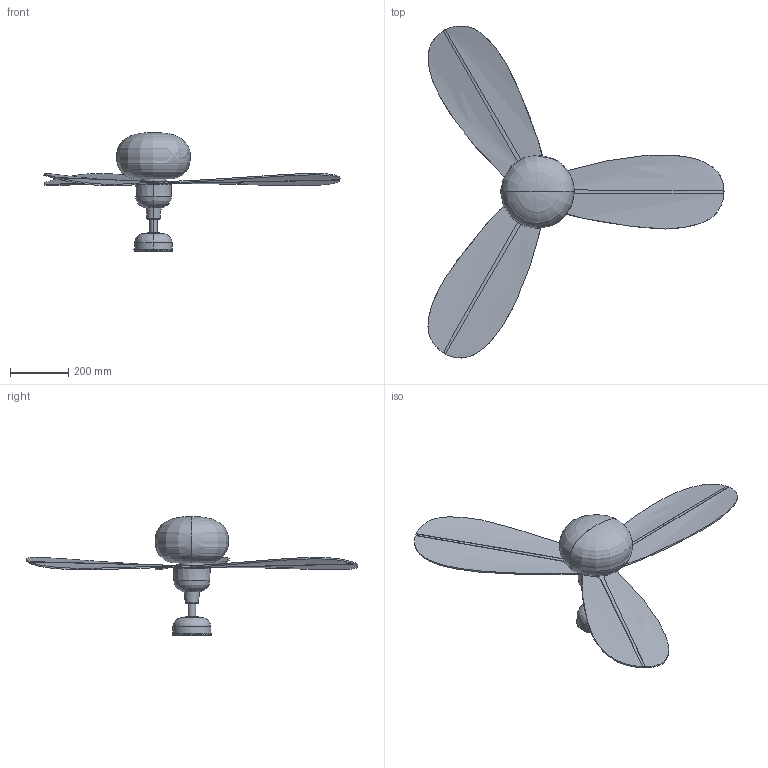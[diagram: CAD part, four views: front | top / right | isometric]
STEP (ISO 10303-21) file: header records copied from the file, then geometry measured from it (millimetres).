
FILE_DESCRIPTION(/* description */ (''),/* implementation_level */ '2;1');
FILE_NAME(/* name */ '34301WP-11L_3d.step',/* time_stamp */ '2024-04-18T13:08:09+02:00',/* author */ ('RenataManzini'),/* organization */ (''),/* preprocessor_version */ 'ST-DEVELOPER v20',/* originating_system */ 'AutoCAD Mechanical',/* authorisation */ '');
FILE_SCHEMA (('AUTOMOTIVE_DESIGN { 1 0 10303 214 3 1 1 }'));
Length unit declared in the file: millimetre
Products named in the file (2): Product; pieza_34301_LUZ - fan-511544-_3D_
Assembly tree (1 placements, depth 2):
  Product
    pieza_34301_LUZ - fan-511544-_3D_
Bounding box: 1018.76 x 1142.47 x 409.41 mm (x, y, z)
Volume: 2455215.8 mm3; surface area: 1398459.6 mm2
Topology: 12 solids, 13 shells, 334 faces, 855 edges, 541 vertices
Faces by surface type: plane 133, cylinder 110, bspline 59, torus 22, cone 10
Entity records: 17615 total; most frequent: CARTESIAN_POINT 10092, ORIENTED_EDGE 1696, DIRECTION 1298, EDGE_CURVE 848, VERTEX_POINT 536, AXIS2_PLACEMENT_3D 441, LINE 416, VECTOR 416
